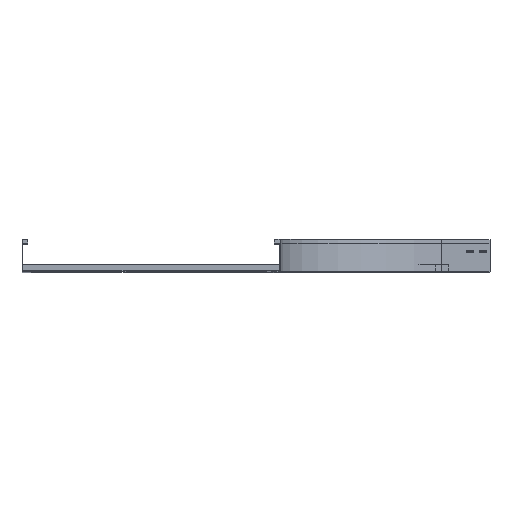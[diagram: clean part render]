
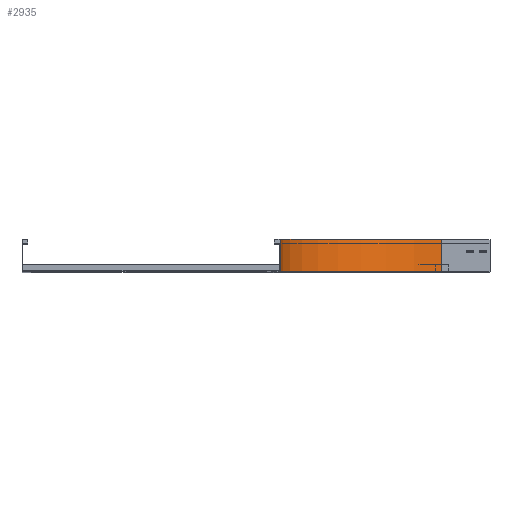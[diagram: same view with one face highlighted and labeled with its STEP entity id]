
A CAD part, top view. The second image highlights one B-rep face of the part: STEP entity #2935.
In plain terms, the highlighted cylindrical face has radius 500 mm (diameter 1000 mm), a partial arc.
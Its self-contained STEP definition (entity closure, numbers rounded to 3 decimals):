
#226 = VECTOR ( 'NONE', #2951, 1000. ) ;
#538 = VERTEX_POINT ( 'NONE', #1186 ) ;
#893 = DIRECTION ( 'NONE',  ( 0., 0., -1. ) ) ;
#954 = FACE_OUTER_BOUND ( 'NONE', #1981, .T. ) ;
#956 = AXIS2_PLACEMENT_3D ( 'NONE', #2254, #1915, #893 ) ;
#1093 = VERTEX_POINT ( 'NONE', #2007 ) ;
#1186 = CARTESIAN_POINT ( 'NONE',  ( 500., 0., -650. ) ) ;
#1274 = DIRECTION ( 'NONE',  ( -1., 0., 0. ) ) ;
#1291 = DIRECTION ( 'NONE',  ( -1., 0., 0. ) ) ;
#1301 = LINE ( 'NONE', #1622, #226 ) ;
#1575 = CYLINDRICAL_SURFACE ( 'NONE', #956, 500. ) ;
#1622 = CARTESIAN_POINT ( 'NONE',  ( 0., 0., -150. ) ) ;
#1645 = LINE ( 'NONE', #3918, #3538 ) ;
#1671 = CARTESIAN_POINT ( 'NONE',  ( 500., 100., -650. ) ) ;
#1764 = EDGE_CURVE ( 'NONE', #1093, #538, #3572, .T. ) ;
#1915 = DIRECTION ( 'NONE',  ( 0., -1., 0. ) ) ;
#1981 = EDGE_LOOP ( 'NONE', ( #4230, #2200, #2048, #3390 ) ) ;
#2007 = CARTESIAN_POINT ( 'NONE',  ( 0., 0., -150. ) ) ;
#2048 = ORIENTED_EDGE ( 'NONE', *, *, #1764, .T. ) ;
#2200 = ORIENTED_EDGE ( 'NONE', *, *, #2690, .F. ) ;
#2254 = CARTESIAN_POINT ( 'NONE',  ( 500., 0., -150. ) ) ;
#2350 = VERTEX_POINT ( 'NONE', #1671 ) ;
#2566 = DIRECTION ( 'NONE',  ( 0., -1., 0. ) ) ;
#2606 = EDGE_CURVE ( 'NONE', #538, #2350, #1645, .T. ) ;
#2690 = EDGE_CURVE ( 'NONE', #1093, #4073, #1301, .T. ) ;
#2731 = AXIS2_PLACEMENT_3D ( 'NONE', #3180, #2566, #1274 ) ;
#2921 = DIRECTION ( 'NONE',  ( 0., -1., 0. ) ) ;
#2935 = ADVANCED_FACE ( 'NONE', ( #954 ), #1575, .F. ) ;
#2951 = DIRECTION ( 'NONE',  ( 0., 1., 0. ) ) ;
#2964 = EDGE_CURVE ( 'NONE', #4073, #2350, #3449, .T. ) ;
#2973 = DIRECTION ( 'NONE',  ( 0., 1., 0. ) ) ;
#3180 = CARTESIAN_POINT ( 'NONE',  ( 500., 0., -150. ) ) ;
#3247 = CARTESIAN_POINT ( 'NONE',  ( 500., 100., -150. ) ) ;
#3390 = ORIENTED_EDGE ( 'NONE', *, *, #2606, .T. ) ;
#3449 = CIRCLE ( 'NONE', #3583, 500. ) ;
#3538 = VECTOR ( 'NONE', #2973, 1000. ) ;
#3572 = CIRCLE ( 'NONE', #2731, 500. ) ;
#3583 = AXIS2_PLACEMENT_3D ( 'NONE', #3247, #2921, #1291 ) ;
#3918 = CARTESIAN_POINT ( 'NONE',  ( 500., 0., -650. ) ) ;
#4073 = VERTEX_POINT ( 'NONE', #4113 ) ;
#4113 = CARTESIAN_POINT ( 'NONE',  ( 0., 100., -150. ) ) ;
#4230 = ORIENTED_EDGE ( 'NONE', *, *, #2964, .F. ) ;
